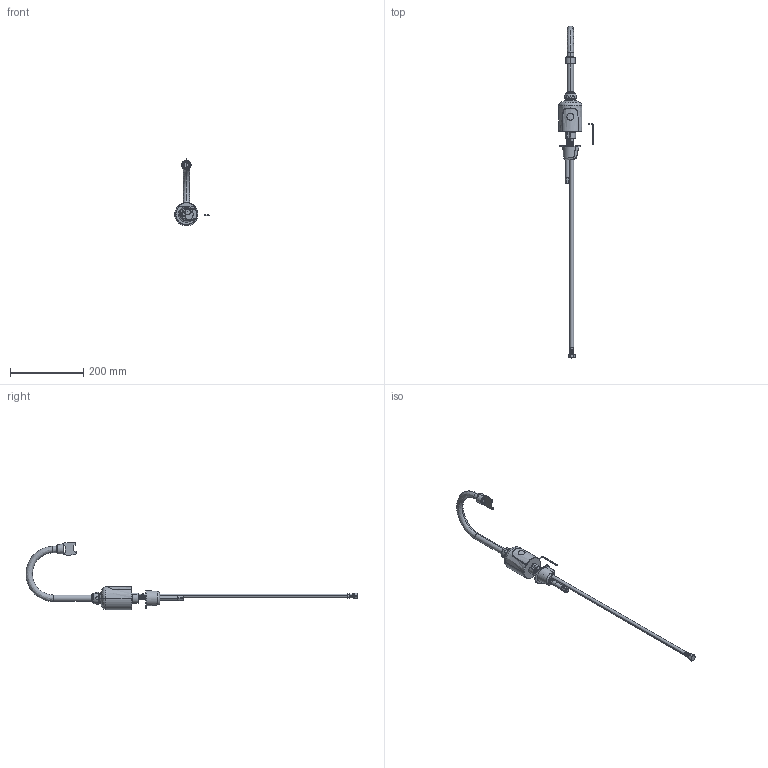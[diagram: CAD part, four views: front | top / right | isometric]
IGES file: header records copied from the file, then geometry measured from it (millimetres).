
Start section:  PTC IGES file: 116-203-ab-1t_REV-A.igs
Global section: file name: 116-203-ab-1t_REV-A.igs; native system: Creo Parametric by PTC Inc.; preprocessor: 2021184; author: rodjo; organization: Unknown; date: 20220615.120259; units: inch
Bounding box: 94.26 x 908.52 x 185.18 mm (x, y, z)
Surface area: 106800.5 mm2 (no closed solid volume)
Topology: 0 solids, 0 shells, 513 faces, 4138 edges, 5655 vertices
Faces by surface type: revolution 337, bspline 176
